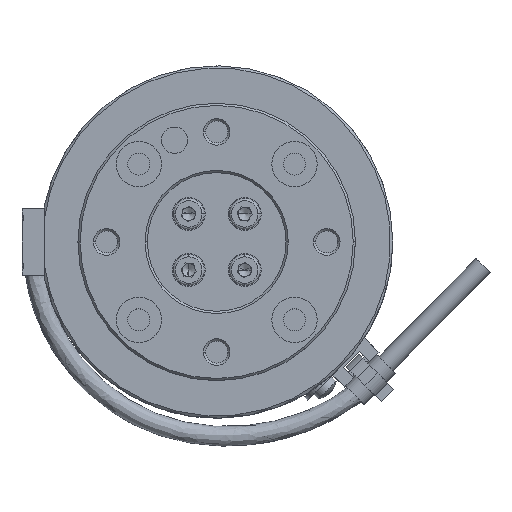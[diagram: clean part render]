
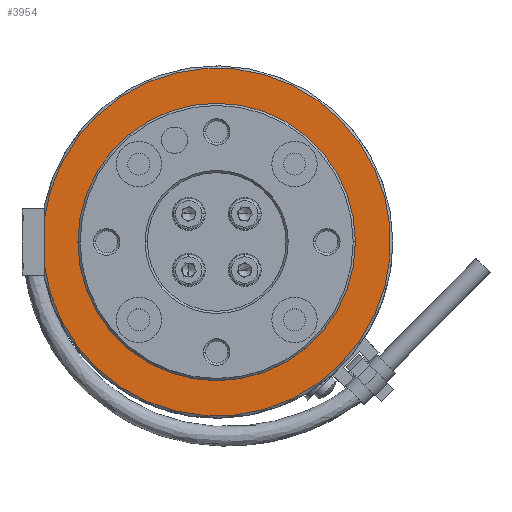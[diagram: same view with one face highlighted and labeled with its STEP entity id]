
A CAD part, top view. The second image highlights one B-rep face of the part: STEP entity #3954.
In plain terms, the highlighted planar face has unit normal (0, 0, 1).
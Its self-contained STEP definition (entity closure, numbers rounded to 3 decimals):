
#69 = CARTESIAN_POINT ( 'NONE',  ( -2.524, -4.767, 95.5 ) ) ;
#300 = ORIENTED_EDGE ( 'NONE', *, *, #9682, .F. ) ;
#420 = CARTESIAN_POINT ( 'NONE',  ( -2.524, -4.767, 95.5 ) ) ;
#860 = CIRCLE ( 'NONE', #1383, 39.5 ) ;
#1062 = EDGE_CURVE ( 'NONE', #6239, #8686, #2327, .T. ) ;
#1167 = ORIENTED_EDGE ( 'NONE', *, *, #10624, .T. ) ;
#1383 = AXIS2_PLACEMENT_3D ( 'NONE', #69, #6340, #6421 ) ;
#1468 = ORIENTED_EDGE ( 'NONE', *, *, #4813, .T. ) ;
#1603 = DIRECTION ( 'NONE',  ( 0., -1., 0. ) ) ;
#1831 = LINE ( 'NONE', #7815, #5764 ) ;
#1832 = DIRECTION ( 'NONE',  ( 1., 0., 0. ) ) ;
#2297 = DIRECTION ( 'NONE',  ( 0., 0., -1. ) ) ;
#2327 = CIRCLE ( 'NONE', #11150, 31.5 ) ;
#2372 = CARTESIAN_POINT ( 'NONE',  ( -41.724, 0.092, 95.5 ) ) ;
#2864 = AXIS2_PLACEMENT_3D ( 'NONE', #9798, #5418, #1832 ) ;
#3018 = DIRECTION ( 'NONE',  ( 0., 0., -1. ) ) ;
#3129 = VERTEX_POINT ( 'NONE', #5620 ) ;
#3280 = EDGE_LOOP ( 'NONE', ( #1468, #11207 ) ) ;
#3446 = VERTEX_POINT ( 'NONE', #2372 ) ;
#3954 = ADVANCED_FACE ( 'NONE', ( #6653, #4269 ), #8920, .T. ) ;
#4269 = FACE_BOUND ( 'NONE', #3280, .T. ) ;
#4813 = EDGE_CURVE ( 'NONE', #8686, #6239, #8104, .T. ) ;
#4832 = CARTESIAN_POINT ( 'NONE',  ( 28.976, -4.767, 95.5 ) ) ;
#4966 = CARTESIAN_POINT ( 'NONE',  ( -34.024, -4.767, 95.5 ) ) ;
#5418 = DIRECTION ( 'NONE',  ( 0., 0., 1. ) ) ;
#5620 = CARTESIAN_POINT ( 'NONE',  ( -41.724, -9.626, 95.5 ) ) ;
#5764 = VECTOR ( 'NONE', #1603, 1000. ) ;
#6239 = VERTEX_POINT ( 'NONE', #4966 ) ;
#6340 = DIRECTION ( 'NONE',  ( 0., 0., -1. ) ) ;
#6421 = DIRECTION ( 'NONE',  ( -1., 0., 0. ) ) ;
#6515 = DIRECTION ( 'NONE',  ( 1., 0., 0. ) ) ;
#6653 = FACE_OUTER_BOUND ( 'NONE', #10463, .T. ) ;
#7533 = CARTESIAN_POINT ( 'NONE',  ( -2.524, -4.767, 95.5 ) ) ;
#7815 = CARTESIAN_POINT ( 'NONE',  ( -41.724, 8.342, 95.5 ) ) ;
#8104 = CIRCLE ( 'NONE', #8750, 31.5 ) ;
#8686 = VERTEX_POINT ( 'NONE', #4832 ) ;
#8750 = AXIS2_PLACEMENT_3D ( 'NONE', #420, #2297, #11249 ) ;
#8920 = PLANE ( 'NONE',  #2864 ) ;
#9682 = EDGE_CURVE ( 'NONE', #3446, #3129, #860, .T. ) ;
#9798 = CARTESIAN_POINT ( 'NONE',  ( -2.524, -4.767, 95.5 ) ) ;
#10463 = EDGE_LOOP ( 'NONE', ( #300, #1167 ) ) ;
#10624 = EDGE_CURVE ( 'NONE', #3446, #3129, #1831, .T. ) ;
#11150 = AXIS2_PLACEMENT_3D ( 'NONE', #7533, #3018, #6515 ) ;
#11207 = ORIENTED_EDGE ( 'NONE', *, *, #1062, .T. ) ;
#11249 = DIRECTION ( 'NONE',  ( 1., 0., 0. ) ) ;
